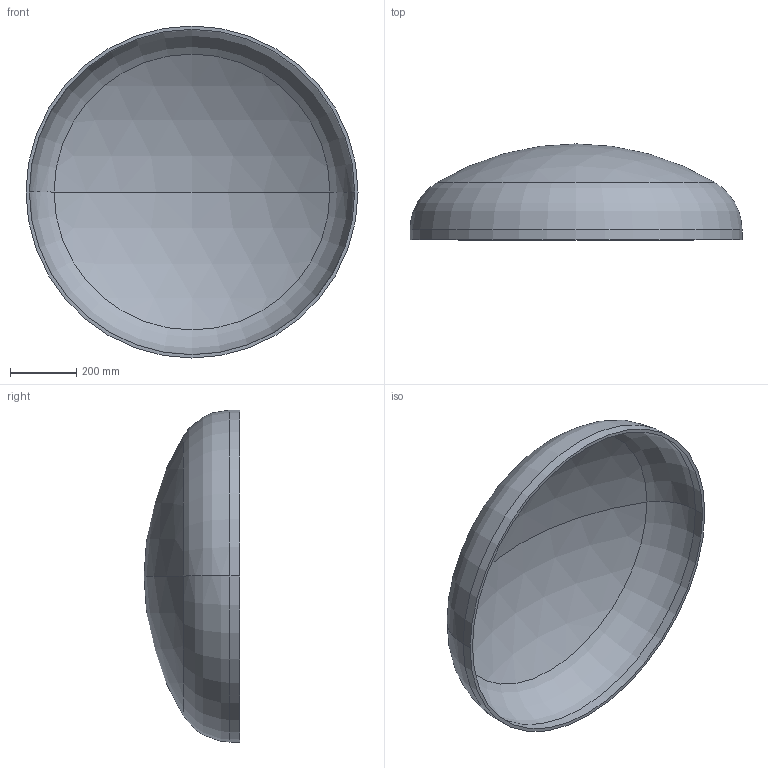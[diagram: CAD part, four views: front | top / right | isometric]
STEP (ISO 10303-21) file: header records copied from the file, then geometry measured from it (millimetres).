
FILE_DESCRIPTION (( 'STEP AP203' ), '1' );
FILE_NAME ('DIN 28013 Korbbogenform_-_Boden DIN 28013 - 1000 x 30 - I - s=10.step', '2016-07-01T08:42:07', ( '' ), ( '' ), 'SwSTEP 2.0', 'SolidWorks 2013', '' );
FILE_SCHEMA (( 'CONFIG_CONTROL_DESIGN' ));
Length unit declared in the file: millimetre
Products named in the file (1): DIN 28013 Korbbogenform_-_Boden DIN 28013 - 1000 x 30 - I - s=10
Bounding box: 1000 x 288.82 x 1000 mm (x, y, z)
Volume: 11681471.4 mm3; surface area: 2367604.6 mm2
Topology: 1 solids, 1 shells, 13 faces, 24 edges, 14 vertices
Faces by surface type: torus 4, cylinder 4, sphere 4, plane 1
Entity records: 407 total; most frequent: DIRECTION 72, CARTESIAN_POINT 52, ORIENTED_EDGE 48, AXIS2_PLACEMENT_3D 34, EDGE_CURVE 24, CIRCLE 20, VERTEX_POINT 14, EDGE_LOOP 14
